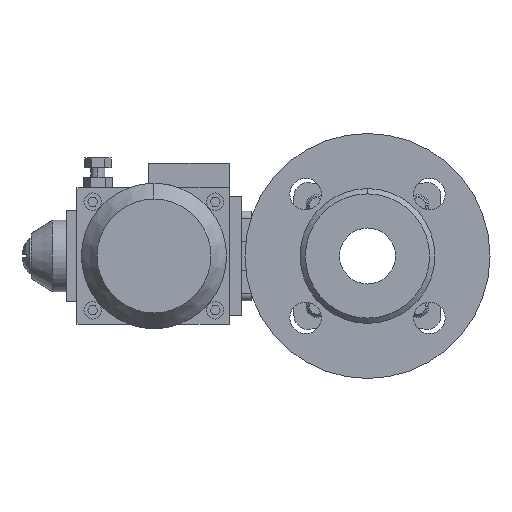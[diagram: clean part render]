
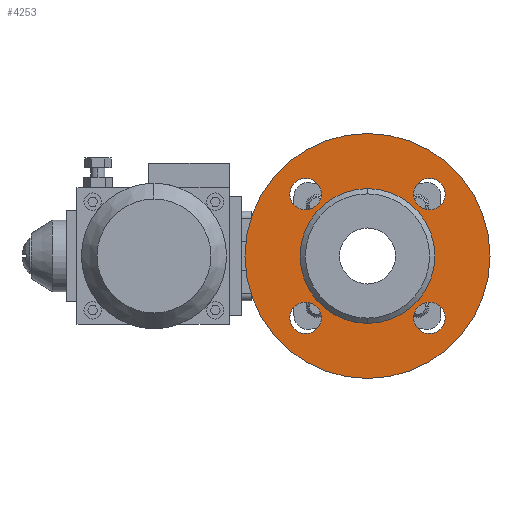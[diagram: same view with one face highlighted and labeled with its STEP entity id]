
A CAD part, left-side view. The second image highlights one B-rep face of the part: STEP entity #4253.
In plain terms, the highlighted planar face has unit normal (-1, 0, 0).
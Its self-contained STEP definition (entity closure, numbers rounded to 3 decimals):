
#1=CARTESIAN_POINT('',(-50.,0.,0.));
#2=DIRECTION('',(-1.,0.,0.));
#3=DIRECTION('',(0.,0.,1.));
#4=AXIS2_PLACEMENT_3D('',#1,#2,#3);
#6=CARTESIAN_POINT('',(-50.,0.,0.));
#7=DIRECTION('',(-1.,0.,0.));
#8=DIRECTION('',(0.,0.,-1.));
#9=AXIS2_PLACEMENT_3D('',#6,#7,#8);
#11=CARTESIAN_POINT('',(-50.,0.,0.));
#12=DIRECTION('',(-1.,0.,0.));
#13=DIRECTION('',(0.,0.,1.));
#14=AXIS2_PLACEMENT_3D('',#11,#12,#13);
#16=CARTESIAN_POINT('',(-50.,0.,0.));
#17=DIRECTION('',(-1.,0.,0.));
#18=DIRECTION('',(0.,0.,-1.));
#19=AXIS2_PLACEMENT_3D('',#16,#17,#18);
#21=CARTESIAN_POINT('',(-50.,35.355,-35.355));
#22=DIRECTION('',(-1.,0.,0.));
#23=DIRECTION('',(0.,0.,1.));
#24=AXIS2_PLACEMENT_3D('',#21,#22,#23);
#26=CARTESIAN_POINT('',(-50.,35.355,-35.355));
#27=DIRECTION('',(-1.,0.,0.));
#28=DIRECTION('',(0.,0.,-1.));
#29=AXIS2_PLACEMENT_3D('',#26,#27,#28);
#31=CARTESIAN_POINT('',(-50.,-35.355,-35.355));
#32=DIRECTION('',(-1.,0.,0.));
#33=DIRECTION('',(0.,1.,0.));
#34=AXIS2_PLACEMENT_3D('',#31,#32,#33);
#36=CARTESIAN_POINT('',(-50.,-35.355,-35.355));
#37=DIRECTION('',(-1.,0.,0.));
#38=DIRECTION('',(0.,-1.,0.));
#39=AXIS2_PLACEMENT_3D('',#36,#37,#38);
#41=CARTESIAN_POINT('',(-50.,-35.355,35.355));
#42=DIRECTION('',(-1.,0.,0.));
#43=DIRECTION('',(0.,0.,-1.));
#44=AXIS2_PLACEMENT_3D('',#41,#42,#43);
#46=CARTESIAN_POINT('',(-50.,-35.355,35.355));
#47=DIRECTION('',(-1.,0.,0.));
#48=DIRECTION('',(0.,0.,1.));
#49=AXIS2_PLACEMENT_3D('',#46,#47,#48);
#51=CARTESIAN_POINT('',(-50.,35.355,35.355));
#52=DIRECTION('',(-1.,0.,0.));
#53=DIRECTION('',(0.,-1.,0.));
#54=AXIS2_PLACEMENT_3D('',#51,#52,#53);
#56=CARTESIAN_POINT('',(-50.,35.355,35.355));
#57=DIRECTION('',(-1.,0.,0.));
#58=DIRECTION('',(0.,1.,0.));
#59=AXIS2_PLACEMENT_3D('',#56,#57,#58);
#3364=CARTESIAN_POINT('',(-50.,0.,70.));
#3365=CARTESIAN_POINT('',(-50.,0.,-70.));
#3366=VERTEX_POINT('',#3364);
#3367=VERTEX_POINT('',#3365);
#3376=CARTESIAN_POINT('',(-50.,0.,38.5));
#3377=CARTESIAN_POINT('',(-50.,0.,-38.5));
#3378=VERTEX_POINT('',#3376);
#3379=VERTEX_POINT('',#3377);
#3461=CARTESIAN_POINT('',(-50.,35.355,-26.355));
#3462=CARTESIAN_POINT('',(-50.,35.355,-44.355));
#3463=VERTEX_POINT('',#3461);
#3464=VERTEX_POINT('',#3462);
#3469=CARTESIAN_POINT('',(-50.,-26.355,-35.355));
#3470=CARTESIAN_POINT('',(-50.,-44.355,-35.355));
#3471=VERTEX_POINT('',#3469);
#3472=VERTEX_POINT('',#3470);
#3477=CARTESIAN_POINT('',(-50.,-35.355,26.355));
#3478=CARTESIAN_POINT('',(-50.,-35.355,44.355));
#3479=VERTEX_POINT('',#3477);
#3480=VERTEX_POINT('',#3478);
#3485=CARTESIAN_POINT('',(-50.,26.355,35.355));
#3486=CARTESIAN_POINT('',(-50.,44.355,35.355));
#3487=VERTEX_POINT('',#3485);
#3488=VERTEX_POINT('',#3486);
#4212=CARTESIAN_POINT('',(-50.,0.,0.));
#4213=DIRECTION('',(-1.,0.,0.));
#4214=DIRECTION('',(0.,0.,1.));
#4215=AXIS2_PLACEMENT_3D('',#4212,#4213,#4214);
#4216=PLANE('',#4215);
#4218=ORIENTED_EDGE('',*,*,#4217,.F.);
#4220=ORIENTED_EDGE('',*,*,#4219,.F.);
#4221=EDGE_LOOP('',(#4218,#4220));
#4222=FACE_OUTER_BOUND('',#4221,.F.);
#4224=ORIENTED_EDGE('',*,*,#4223,.T.);
#4226=ORIENTED_EDGE('',*,*,#4225,.T.);
#4227=EDGE_LOOP('',(#4224,#4226));
#4228=FACE_BOUND('',#4227,.F.);
#4230=ORIENTED_EDGE('',*,*,#4229,.T.);
#4232=ORIENTED_EDGE('',*,*,#4231,.T.);
#4233=EDGE_LOOP('',(#4230,#4232));
#4234=FACE_BOUND('',#4233,.F.);
#4236=ORIENTED_EDGE('',*,*,#4235,.T.);
#4238=ORIENTED_EDGE('',*,*,#4237,.T.);
#4239=EDGE_LOOP('',(#4236,#4238));
#4240=FACE_BOUND('',#4239,.F.);
#4242=ORIENTED_EDGE('',*,*,#4241,.T.);
#4244=ORIENTED_EDGE('',*,*,#4243,.T.);
#4245=EDGE_LOOP('',(#4242,#4244));
#4246=FACE_BOUND('',#4245,.F.);
#4248=ORIENTED_EDGE('',*,*,#4247,.T.);
#4250=ORIENTED_EDGE('',*,*,#4249,.T.);
#4251=EDGE_LOOP('',(#4248,#4250));
#4252=FACE_BOUND('',#4251,.F.);
#4253=ADVANCED_FACE('',(#4222,#4228,#4234,#4240,#4246,#4252),#4216,.T.);
#5=CIRCLE('',#4,70.);
#10=CIRCLE('',#9,70.);
#15=CIRCLE('',#14,38.5);
#20=CIRCLE('',#19,38.5);
#25=CIRCLE('',#24,9.);
#30=CIRCLE('',#29,9.);
#35=CIRCLE('',#34,9.);
#40=CIRCLE('',#39,9.);
#45=CIRCLE('',#44,9.);
#50=CIRCLE('',#49,9.);
#55=CIRCLE('',#54,9.);
#60=CIRCLE('',#59,9.);
#4217=EDGE_CURVE('',#3366,#3367,#5,.T.);
#4219=EDGE_CURVE('',#3367,#3366,#10,.T.);
#4223=EDGE_CURVE('',#3378,#3379,#15,.T.);
#4225=EDGE_CURVE('',#3379,#3378,#20,.T.);
#4229=EDGE_CURVE('',#3463,#3464,#25,.T.);
#4231=EDGE_CURVE('',#3464,#3463,#30,.T.);
#4235=EDGE_CURVE('',#3471,#3472,#35,.T.);
#4237=EDGE_CURVE('',#3472,#3471,#40,.T.);
#4241=EDGE_CURVE('',#3479,#3480,#45,.T.);
#4243=EDGE_CURVE('',#3480,#3479,#50,.T.);
#4247=EDGE_CURVE('',#3487,#3488,#55,.T.);
#4249=EDGE_CURVE('',#3488,#3487,#60,.T.);
